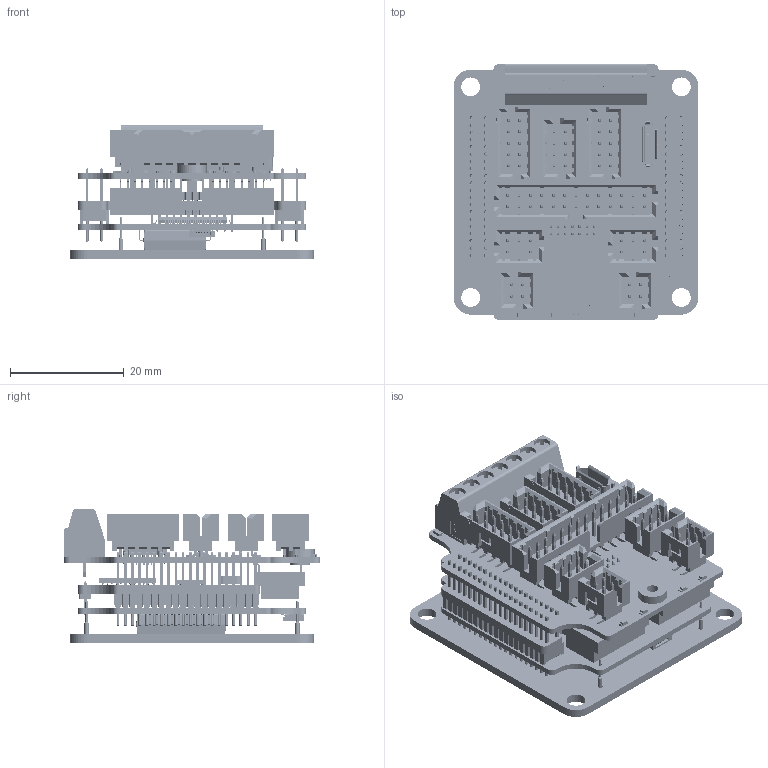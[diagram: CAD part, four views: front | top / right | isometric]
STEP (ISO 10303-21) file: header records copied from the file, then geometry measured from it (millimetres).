
FILE_DESCRIPTION(('Open CASCADE Model'),'2;1');
FILE_NAME('Open CASCADE Shape Model','2017-01-03T12:38:56',('Author'),( 'Open CASCADE'),'Open CASCADE STEP processor 6.8','Open CASCADE 6.8' ,'Unknown');
FILE_SCHEMA(('AUTOMOTIVE_DESIGN { 1 0 10303 214 1 1 1 1 }'));
Length unit declared in the file: millimetre
Products named in the file (93): PCB; Board; Free-Models; i039-01H3(ECAT); D13; LED_SMD0603; D16; M1; WURTH_9774015151R; U8; 7490100111A; U11; P1; 1751293; mkds_1-7-3.5; P5; WURTH_614105150721; 614105150721_2; 614105150721; 614105150721_Pin; 614105150721_PinBis; D18; P3; MOLEX_87832-0806; P6; MOLEX_87832-2620; P7; MOLEX_87832-0628; P4; MOLEX_87832-1006; P2; P8; D17; APHB1608; ORIGIN1; 751899152; Sphere; P10; MOLEX_87832-0406; P9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
Assembly tree (283 placements, depth 7):
  PCB
    Board
    Free-Models
      i039-01H3(ECAT)
        Board
        D13
          LED_SMD0603
        D16
          LED_SMD0603
        M1
          WURTH_9774015151R
        U8
          7490100111A
        U11
          7490100111A
        P1
          1751293
            mkds_1-7-3.5
        P5
          WURTH_614105150721
            614105150721_2
            614105150721
            614105150721_Pin  x3
            614105150721_PinBis  x2
        D18
          LED_SMD0603
        P3
          MOLEX_87832-0806
        P6
          MOLEX_87832-2620
        P7
          MOLEX_87832-0628
        P4
          MOLEX_87832-1006
        P2
          MOLEX_87832-1006
        P8
          MOLEX_87832-0628
        D17
          APHB1608
        ORIGIN1
          751899152
            Sphere
        P10
          MOLEX_87832-0406
        P9
          MOLEX_87832-0406
        D15
          LED_SMD0603
        D14
          LED_SMD0603
      i039-01H1
        Board
        P4
          MOLEX_51281-0594
        B3
          mill-max-1267-0-00-01-00-00-03-0
        B4
          mill-max-1267-0-00-01-00-00-03-0
        B2
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Bounding box: 43 x 45 x 23.5 mm (x, y, z)
Volume: 13245.3 mm3; surface area: 26492.7 mm2
Topology: 276 solids, 279 shells, 12276 faces, 31789 edges, 20106 vertices
Faces by surface type: plane 10165, cylinder 1686, sphere 141, bspline 136, cone 116, extrusion 32
Full cylindrical faces by diameter (mm): 0.45 x5, 0.6 x296, 1 x10, 1.1 x7, 1.387 x1, 3.7 x1, 4 x1
Entity records: 688425 total; most frequent: CARTESIAN_POINT 225950, DIRECTION 73271, VECTOR 50445, LINE 50429, ORIENTED_EDGE 41557, PCURVE 41537, DEFINITIONAL_REPRESENTATION 41537, EDGE_CURVE 20770
